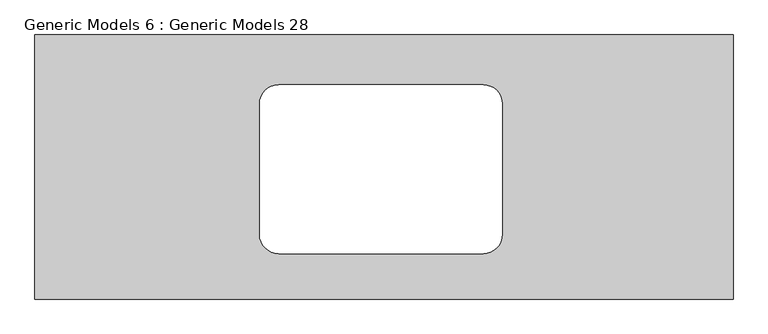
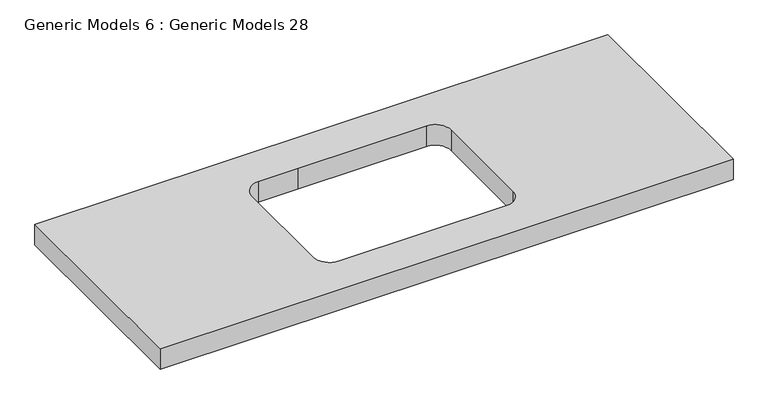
"""IFC4 building model written with IfcOpenShell, lengths in millimetres: proxy geometry, Generic Models 6 : Generic Models 28."""

from ifc_helpers import new_model, si_unit, point, frame, frame_2d, origin, place, context, project, spatial, polyline, circle_curve, trimmed, segment, composite_curve, outline, extrude, source, transform, mapped, element, save


def generic_models_6_generic_models_28_8bcd00e3(model_context):
    return source(origin(), model_context, "Body", "SweptSolid", [
        extrude(outline(polyline([(-28362.2739616, -4089.6284734), (-26512.2739616, -4089.6284734), (-26512.2739616, -4789.6284734), (-28362.2739616, -4789.6284734), (-28362.2739616, -4089.6284734)]), holes=[composite_curve([segment(trimmed(circle_curve(frame_2d((-27716.2048731, -4272.1871375)), 50.8), [point((-27716.2048731, -4221.3871375))], [point((-27767.0048731, -4272.1871375))], True, "CARTESIAN"), True, "CONTINUOUS"), segment(polyline([(-27767.0048731, -4272.1871375), (-27767.0048731, -4618.1871375)]), True, "CONTINUOUS"), segment(trimmed(circle_curve(frame_2d((-27716.2048731, -4618.1871375)), 50.8), [point((-27767.0048731, -4618.1871375))], [point((-27716.2048731, -4668.9871375))], True, "CARTESIAN"), True, "CONTINUOUS"), segment(polyline([(-27716.2048731, -4668.9871375), (-27174.7048731, -4668.9871375)]), True, "CONTINUOUS"), segment(trimmed(circle_curve(frame_2d((-27174.7048731, -4618.1871375)), 50.8), [point((-27174.7048731, -4668.9871375))], [point((-27123.9048731, -4618.1871375))], True, "CARTESIAN"), True, "CONTINUOUS"), segment(polyline([(-27123.9048731, -4618.1871375), (-27123.9048731, -4272.1871375)]), True, "CONTINUOUS"), segment(trimmed(circle_curve(frame_2d((-27174.7048731, -4272.1871375)), 50.8), [point((-27123.9048731, -4272.1871375))], [point((-27174.7048731, -4221.3871375))], True, "CARTESIAN"), True, "CONTINUOUS"), segment(polyline([(-27174.7048731, -4221.3871375), (-27589.7246958, -4221.3871375), (-27716.2048731, -4221.3871375)]), True, "CONTINUOUS")], self_intersect=False)]), frame((0.0, 0.0, 830.0), z_axis=(0.0, 0.0, 1.0), x_axis=(1.0, 0.0, 0.0)), (0.0, 0.0, 1.0), 70.0),
    ])


if __name__ == "__main__":
    model = new_model("IFC4")
    model_context = context("Model", 3, world=origin())
    ifc_project = project(units=[si_unit("LENGTHUNIT", "METRE", prefix="MILLI")], contexts=[model_context])
    site = spatial("IfcSite", under=ifc_project)
    building = spatial("IfcBuilding", under=site)
    placement = place(None, origin())
    generic_models_6_generic_models_28_shape = generic_models_6_generic_models_28_8bcd00e3(model_context)
    element("IfcBuildingElementProxy", 1, Name="Generic Models 6 : Generic Models 28", ObjectType="Generic Models 6 : Generic Models 28", at=placement, inside=building, context=model_context, shape_type="MappedRepresentation", body=[
        mapped(generic_models_6_generic_models_28_shape, transform((0.0, 0.0, 0.0), x_axis=(1.0, 0.0, 0.0), y_axis=(0.0, 1.0, 0.0), z_axis=(0.0, 0.0, 1.0))),
    ])
    save(model, "model.ifc")
